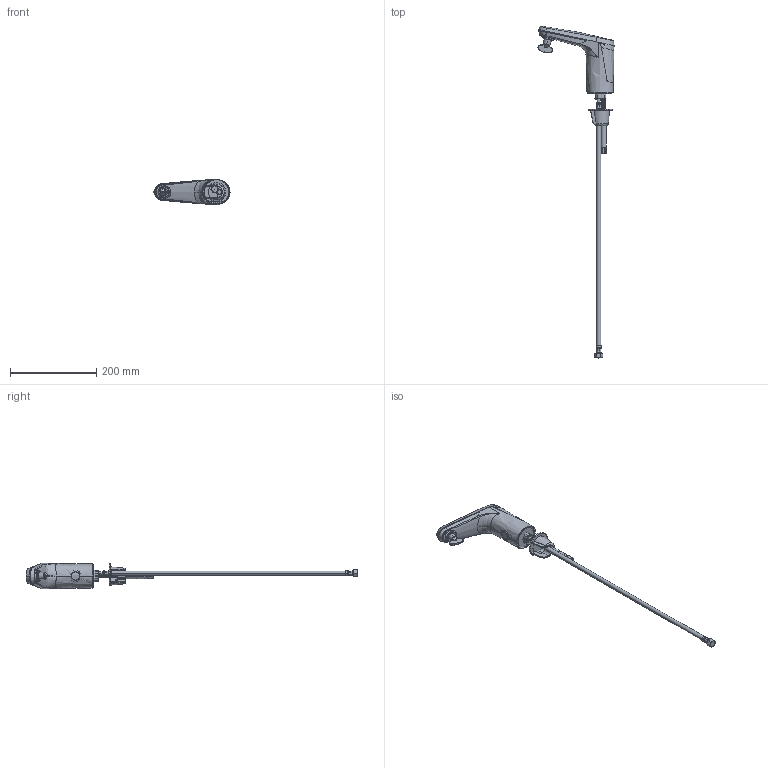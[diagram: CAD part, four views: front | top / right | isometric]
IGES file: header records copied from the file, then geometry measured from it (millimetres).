
Start section:  PTC IGES file: e80-a11h-11abcpt_rev112321.igs
Global section: file name: e80-a11h-11abcpt_rev112321.igs; native system: Creo Parametric by PTC Inc.; preprocessor: 2021184; author: rodjo; organization: Unknown; date: 20211123.170302; units: inch
Bounding box: 176.2 x 769.24 x 59.53 mm (x, y, z)
Surface area: 90719.7 mm2 (no closed solid volume)
Topology: 0 solids, 0 shells, 512 faces, 4164 edges, 5714 vertices
Faces by surface type: revolution 298, bspline 211, extrusion 3
